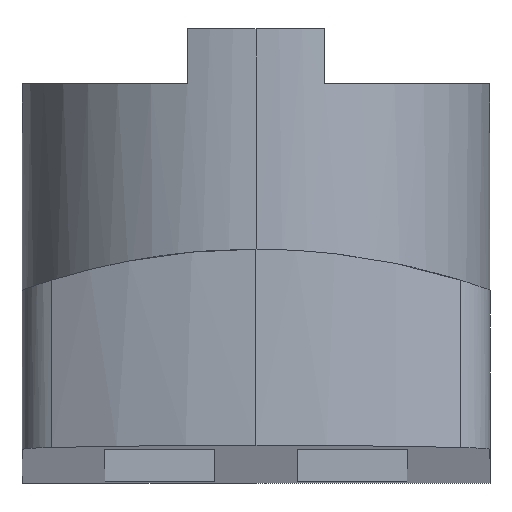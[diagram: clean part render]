
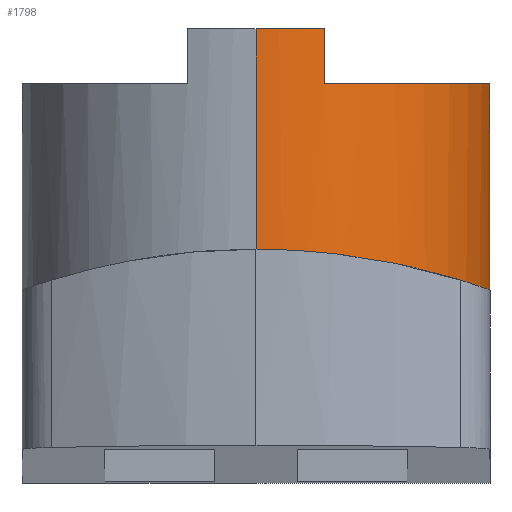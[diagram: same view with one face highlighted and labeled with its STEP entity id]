
A CAD part, left-side view. The second image highlights one B-rep face of the part: STEP entity #1798.
In plain terms, the highlighted cylindrical face has radius 8.5 mm (diameter 17 mm), a partial arc.
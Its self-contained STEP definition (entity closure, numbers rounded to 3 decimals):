
#7 = CARTESIAN_POINT ( 'NONE',  ( 8.5, 0., 1.487 ) ) ;
#13 = VERTEX_POINT ( 'NONE', #1676 ) ;
#85 = EDGE_CURVE ( 'NONE', #1592, #708, #505, .T. ) ;
#107 =( BOUNDED_CURVE ( )  B_SPLINE_CURVE ( 3, ( #1115, #1048, #1264, #752 ),
 .UNSPECIFIED., .F., .T. ) 
 B_SPLINE_CURVE_WITH_KNOTS ( ( 4, 4 ),
 ( 1.571, 3.142 ),
 .UNSPECIFIED. ) 
 CURVE ( )  GEOMETRIC_REPRESENTATION_ITEM ( )  RATIONAL_B_SPLINE_CURVE ( ( 1., 0.805, 0.805, 1. ) ) 
 REPRESENTATION_ITEM ( '' )  );
#115 = CARTESIAN_POINT ( 'NONE',  ( 0., 0., 14.5 ) ) ;
#141 = AXIS2_PLACEMENT_3D ( 'NONE', #115, #146, #170 ) ;
#146 = DIRECTION ( 'NONE',  ( 0., 0., 1. ) ) ;
#170 = DIRECTION ( 'NONE',  ( 1., 0., 0. ) ) ;
#180 = ORIENTED_EDGE ( 'NONE', *, *, #85, .F. ) ;
#200 = CARTESIAN_POINT ( 'NONE',  ( -3.822, -7.613, 5.855 ) ) ;
#228 = EDGE_CURVE ( 'NONE', #13, #853, #1068, .T. ) ;
#236 = CARTESIAN_POINT ( 'NONE',  ( -8.124, -2.5, 16.5 ) ) ;
#237 = VERTEX_POINT ( 'NONE', #1338 ) ;
#245 = ORIENTED_EDGE ( 'NONE', *, *, #1174, .T. ) ;
#256 = CARTESIAN_POINT ( 'NONE',  ( 8.5, 0., 8.5 ) ) ;
#268 = VECTOR ( 'NONE', #1484, 1000. ) ;
#273 = LINE ( 'NONE', #1293, #658 ) ;
#288 = DIRECTION ( 'NONE',  ( -1., 0., 0. ) ) ;
#289 = ORIENTED_EDGE ( 'NONE', *, *, #1290, .F. ) ;
#399 = CARTESIAN_POINT ( 'NONE',  ( 0., -8.5, 8.5 ) ) ;
#408 = CARTESIAN_POINT ( 'NONE',  ( 0., 0., 8.5 ) ) ;
#412 = DIRECTION ( 'NONE',  ( 0., 0., -1. ) ) ;
#432 = DIRECTION ( 'NONE',  ( 0., 0., -1. ) ) ;
#448 = DIRECTION ( 'NONE',  ( 0., 0., -1. ) ) ;
#464 = CARTESIAN_POINT ( 'NONE',  ( 0., -8.5, 0.744 ) ) ;
#475 = VECTOR ( 'NONE', #412, 1000. ) ;
#505 = CIRCLE ( 'NONE', #756, 8.5 ) ;
#638 = CARTESIAN_POINT ( 'NONE',  ( -8.5, -0.285, 8. ) ) ;
#658 = VECTOR ( 'NONE', #1612, 1000. ) ;
#695 = DIRECTION ( 'NONE',  ( 1., 0., 0. ) ) ;
#708 = VERTEX_POINT ( 'NONE', #1552 ) ;
#748 = VERTEX_POINT ( 'NONE', #1624 ) ;
#752 = CARTESIAN_POINT ( 'NONE',  ( 8.5, 0., 1.487 ) ) ;
#756 = AXIS2_PLACEMENT_3D ( 'NONE', #825, #1576, #695 ) ;
#784 = ORIENTED_EDGE ( 'NONE', *, *, #972, .F. ) ;
#791 = CIRCLE ( 'NONE', #141, 8.5 ) ;
#806 = AXIS2_PLACEMENT_3D ( 'NONE', #408, #432, #288 ) ;
#825 = CARTESIAN_POINT ( 'NONE',  ( 0., 0., 16.5 ) ) ;
#840 = VERTEX_POINT ( 'NONE', #1839 ) ;
#853 = VERTEX_POINT ( 'NONE', #7 ) ;
#854 = ORIENTED_EDGE ( 'NONE', *, *, #1770, .F. ) ;
#862 = CARTESIAN_POINT ( 'NONE',  ( -7.381, -4.252, 7.117 ) ) ;
#919 = LINE ( 'NONE', #236, #475 ) ;
#972 = EDGE_CURVE ( 'NONE', #708, #840, #919, .T. ) ;
#978 = EDGE_CURVE ( 'NONE', #748, #983, #1024, .T. ) ;
#983 = VERTEX_POINT ( 'NONE', #464 ) ;
#1024 = LINE ( 'NONE', #399, #1302 ) ;
#1048 = CARTESIAN_POINT ( 'NONE',  ( 4.979, -8.5, 1.179 ) ) ;
#1051 = CARTESIAN_POINT ( 'NONE',  ( -8.5, 0., 8. ) ) ;
#1064 = CARTESIAN_POINT ( 'NONE',  ( -1.136, -8.443, 5.523 ) ) ;
#1068 = LINE ( 'NONE', #256, #268 ) ;
#1084 = CARTESIAN_POINT ( 'NONE',  ( 0., -8.5, 5.5 ) ) ;
#1099 = B_SPLINE_CURVE_WITH_KNOTS ( 'NONE', 3,
 ( #1084, #1103, #1064, #1180, #1188, #200, #1216, #1227, #1278, #1307, #1326, #1441, #1306, #1350, #1371, #862, #1457, #1458, #1426, #1780, #1841, #1854, #638, #1051 ),
 .UNSPECIFIED., .F., .F.,
 ( 4, 2, 2, 2, 2, 2, 2, 2, 2, 2, 2, 4 ),
 ( 0., 0.002, 0.003, 0.005, 0.006, 0.007, 0.008, 0.008, 0.01, 0.012, 0.013, 0.014 ),
 .UNSPECIFIED. ) ;
#1103 = CARTESIAN_POINT ( 'NONE',  ( -0.573, -8.5, 5.5 ) ) ;
#1115 = CARTESIAN_POINT ( 'NONE',  ( 0., -8.5, 0.744 ) ) ;
#1148 = CYLINDRICAL_SURFACE ( 'NONE', #806, 8.5 ) ;
#1174 = EDGE_CURVE ( 'NONE', #1592, #237, #273, .T. ) ;
#1180 = CARTESIAN_POINT ( 'NONE',  ( -2.242, -8.218, 5.613 ) ) ;
#1188 = CARTESIAN_POINT ( 'NONE',  ( -2.79, -8.049, 5.681 ) ) ;
#1201 = FACE_OUTER_BOUND ( 'NONE', #1217, .T. ) ;
#1216 = CARTESIAN_POINT ( 'NONE',  ( -4.311, -7.347, 5.961 ) ) ;
#1217 = EDGE_LOOP ( 'NONE', ( #1809, #854, #784, #180, #245, #289, #1681, #1549 ) ) ;
#1227 = CARTESIAN_POINT ( 'NONE',  ( -5.003, -6.878, 6.145 ) ) ;
#1264 = CARTESIAN_POINT ( 'NONE',  ( 8.5, -4.979, 1.487 ) ) ;
#1278 = CARTESIAN_POINT ( 'NONE',  ( -5.226, -6.71, 6.21 ) ) ;
#1290 = EDGE_CURVE ( 'NONE', #748, #237, #1099, .T. ) ;
#1293 = CARTESIAN_POINT ( 'NONE',  ( -8.5, 0., 8.5 ) ) ;
#1302 = VECTOR ( 'NONE', #448, 1000. ) ;
#1306 = CARTESIAN_POINT ( 'NONE',  ( -6.418, -5.58, 6.64 ) ) ;
#1307 = CARTESIAN_POINT ( 'NONE',  ( -5.65, -6.357, 6.346 ) ) ;
#1326 = CARTESIAN_POINT ( 'NONE',  ( -5.851, -6.171, 6.417 ) ) ;
#1338 = CARTESIAN_POINT ( 'NONE',  ( -8.5, 0., 8. ) ) ;
#1350 = CARTESIAN_POINT ( 'NONE',  ( -6.763, -5.156, 6.796 ) ) ;
#1371 = CARTESIAN_POINT ( 'NONE',  ( -6.927, -4.934, 6.876 ) ) ;
#1426 = CARTESIAN_POINT ( 'NONE',  ( -8.221, -2.232, 7.723 ) ) ;
#1441 = CARTESIAN_POINT ( 'NONE',  ( -6.235, -5.783, 6.564 ) ) ;
#1457 = CARTESIAN_POINT ( 'NONE',  ( -7.636, -3.774, 7.278 ) ) ;
#1458 = CARTESIAN_POINT ( 'NONE',  ( -8.056, -2.767, 7.58 ) ) ;
#1484 = DIRECTION ( 'NONE',  ( 0., 0., -1. ) ) ;
#1530 = EDGE_CURVE ( 'NONE', #983, #853, #107, .T. ) ;
#1547 = CARTESIAN_POINT ( 'NONE',  ( -8.5, 0., 16.5 ) ) ;
#1549 = ORIENTED_EDGE ( 'NONE', *, *, #1530, .T. ) ;
#1552 = CARTESIAN_POINT ( 'NONE',  ( -8.124, -2.5, 16.5 ) ) ;
#1576 = DIRECTION ( 'NONE',  ( 0., 0., 1. ) ) ;
#1592 = VERTEX_POINT ( 'NONE', #1547 ) ;
#1612 = DIRECTION ( 'NONE',  ( 0., 0., -1. ) ) ;
#1624 = CARTESIAN_POINT ( 'NONE',  ( 0., -8.5, 5.5 ) ) ;
#1676 = CARTESIAN_POINT ( 'NONE',  ( 8.5, 0., 14.5 ) ) ;
#1681 = ORIENTED_EDGE ( 'NONE', *, *, #978, .T. ) ;
#1770 = EDGE_CURVE ( 'NONE', #840, #13, #791, .T. ) ;
#1780 = CARTESIAN_POINT ( 'NONE',  ( -8.386, -1.412, 7.881 ) ) ;
#1798 = ADVANCED_FACE ( 'NONE', ( #1201 ), #1148, .T. ) ;
#1809 = ORIENTED_EDGE ( 'NONE', *, *, #228, .F. ) ;
#1839 = CARTESIAN_POINT ( 'NONE',  ( -8.124, -2.5, 14.5 ) ) ;
#1841 = CARTESIAN_POINT ( 'NONE',  ( -8.429, -1.135, 7.924 ) ) ;
#1854 = CARTESIAN_POINT ( 'NONE',  ( -8.485, -0.573, 7.984 ) ) ;
